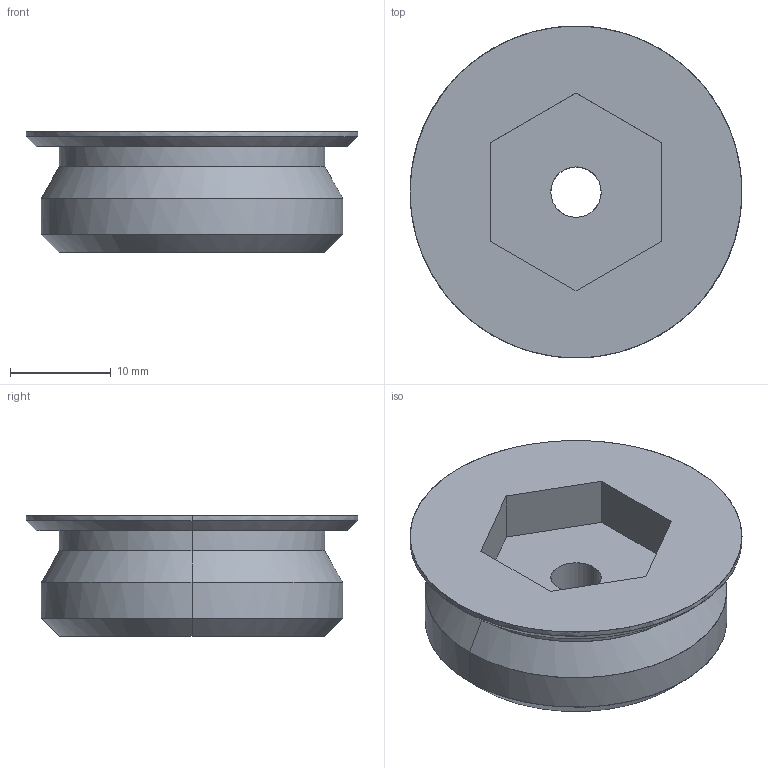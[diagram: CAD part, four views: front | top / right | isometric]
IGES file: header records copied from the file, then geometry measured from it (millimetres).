
Global section: file name: E:\UnigraphicsGraphicData\MISUMI_PRESS-PARTS\IGES\3d_mswzsh30-12_00507_r00.igs; native system: NX V5.0; preprocessor: UGS NX IGES V5.0; author: MISUMI; date: 20110105.161532; units: millimetre
Bounding box: 33 x 33 x 12 mm (x, y, z)
Surface area: 3217.4 mm2 (no closed solid volume)
Topology: 0 solids, 0 shells, 24 faces, 172 edges, 172 vertices
Faces by surface type: bspline 24
